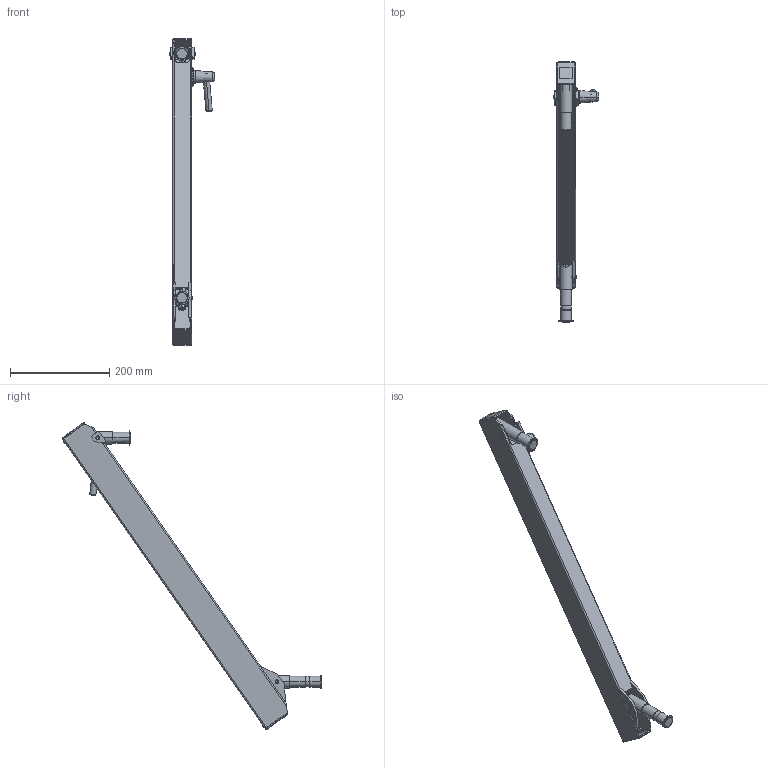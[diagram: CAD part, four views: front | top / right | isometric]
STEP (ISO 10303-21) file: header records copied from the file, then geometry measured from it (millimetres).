
FILE_DESCRIPTION (( 'STEP AP203' ), '1' );
FILE_NAME ('70-2435-00 REV AA, FLEX SECTION, 24in, 16-35 LB - UP.STEP', '2025-06-17T23:27:09', ( '' ), ( '' ), 'SwSTEP 2.0', 'SolidWorks 2025', '' );
FILE_SCHEMA (( 'CONFIG_CONTROL_DESIGN' ));
Length unit declared in the file: inch
Products named in the file (37): 71-2033-99 REV AA, BOLT, ADJUSTING, 12.120; 71-0057-WDX REV AA, GUIDE WELDMENT, 24in DOUBLE SPRING GUIDE; 002-041-00_002-041-00; 71-0038-RX REV AA, PIVOT, KNUCKLE, ELECTROLESS NICKEL; 71-2400-RX REV AA, HOUSING, 24in FLEX; 005-084-00, BOLT, 1''4-20x2.75; 010-012-00, RETAINING RING, EXTERNAL, .875in SHAFT; 010-011-00, RETAINING RING, EXT, .250 SHAFT_010-011-00; 006-059-00; 007-036-00, SHSS, 1''4-28, .25L_007-036-00; 71-0058-RX REV AA, BAR, GUIDE, 24in DOUBLE SPRING; 71-0070-RX REV AA, AXLE PIN, SHORT; 71-0060-00; 71-1051-RX REV AA, SPRING BLOCK; 011-020-00 REV AA, PIN, KNURLED, 1.0LG x .25OD; 11-0602-RX REV AA, HANDLE, BRAKE ASSEMBLY; 11-0650-00 REV AA, BRAKE HANDLE ASSEMBLY; 004-144-00; 71-0028-RX REV AA, TAB, MOUNT_MACHINE; 016-070-00, BEARING, PLASTIC, .5ID x .625 OD x .75; 011-033-00; 004-050-00, WASHER, FIBER, .032 THK, .265ID; 71-0972-99 REV 1, END CAP, FLEX; 70-2435-00 REV AA,  FLEX SECTION, 24in, 16-35 LB - UP; 71-3032-RX REV AA, SPRING ROD, 24in FLEX; 71-2401-BLKX REV AA, FLEX HOUSING, 24in, BLACK; 71-0059-RX REV AA, BUSHING, GUIDE, 24in DOUBLE SPRING; 013-043-00, SPRING, GOLD, 1x8_ISO425203; 71-0040-RX REV AA, BRAKE BLOCK, WIDE_MACHINE; 006-004-00_006-004-00; 11-0027-RX REV AA, PLASTIC DISC, BRAKE ASSEMBLY_MACHINE; 71-0031-RX REV AA, KNUCKLE, MOUNT_MACHINE; 71-0071-RX REV AA, AXLE PIN, LONG; 71-0030-RX REV AA, KNUCKLE, LOAD_MACHINE; 11-0601-99 REV AA, CONICAL KNOB, BRAKE ASSEMBLY; 71-0037-RX REV AA, PIVOT, THREADED; 71-0029-RX REV AA, TAB, LOAD
Assembly tree (61 placements, depth 3):
  70-2435-00 REV AA,  FLEX SECTION, 24in, 16-35 LB - UP
    71-0031-RX REV AA, KNUCKLE, MOUNT_MACHINE
    71-1051-RX REV AA, SPRING BLOCK
    71-3032-RX REV AA, SPRING ROD, 24in FLEX
    71-0030-RX REV AA, KNUCKLE, LOAD_MACHINE
    71-0038-RX REV AA, PIVOT, KNUCKLE, ELECTROLESS NICKEL
    71-0037-RX REV AA, PIVOT, THREADED
    71-0040-RX REV AA, BRAKE BLOCK, WIDE_MACHINE
    71-2033-99 REV AA, BOLT, ADJUSTING, 12.120
    71-2401-BLKX REV AA, FLEX HOUSING, 24in, BLACK
      71-2400-RX REV AA, HOUSING, 24in FLEX
      71-0029-RX REV AA, TAB, LOAD  x2
      71-0028-RX REV AA, TAB, MOUNT_MACHINE  x2
    71-0070-RX REV AA, AXLE PIN, SHORT
    71-0071-RX REV AA, AXLE PIN, LONG
    71-0972-99 REV 1, END CAP, FLEX  x2
    11-0027-RX REV AA, PLASTIC DISC, BRAKE ASSEMBLY_MACHINE
    71-0057-WDX REV AA, GUIDE WELDMENT, 24in DOUBLE SPRING GUIDE
      71-0058-RX REV AA, BAR, GUIDE, 24in DOUBLE SPRING
      71-0059-RX REV AA, BUSHING, GUIDE, 24in DOUBLE SPRING  x2
    71-0060-00  x2
    11-0650-00 REV AA, BRAKE HANDLE ASSEMBLY
      11-0601-99 REV AA, CONICAL KNOB, BRAKE ASSEMBLY
      11-0602-RX REV AA, HANDLE, BRAKE ASSEMBLY
      11-0027-RX REV AA, PLASTIC DISC, BRAKE ASSEMBLY_MACHINE
      005-084-00, BOLT, 1''4-20x2.75
    010-012-00, RETAINING RING, EXTERNAL, .875in SHAFT  x2
    013-043-00, SPRING, GOLD, 1x8_ISO425203  x2
    010-011-00, RETAINING RING, EXT, .250 SHAFT_010-011-00  x4
    007-036-00, SHSS, 1''4-28, .25L_007-036-00
    016-070-00, BEARING, PLASTIC, .5ID x .625 OD x .75  x2
    004-050-00, WASHER, FIBER, .032 THK, .265ID  x8
    011-033-00  x2
    011-020-00 REV AA, PIN, KNURLED, 1.0LG x .25OD  x2
    004-144-00  x3
    006-059-00
    006-004-00_006-004-00  x2
    002-041-00_002-041-00  x2
Bounding box: 91.63 x 522.84 x 617.51 mm (x, y, z)
Volume: 699249.7 mm3; surface area: 477558.6 mm2
Topology: 61 solids, 61 shells, 1189 faces, 2882 edges, 1814 vertices
Faces by surface type: cylinder 484, plane 404, cone 217, torus 45, bspline 33, sphere 6
Entity records: 65279 total; most frequent: CARTESIAN_POINT 41780, ORIENTED_EDGE 3952, DIRECTION 3929, EDGE_CURVE 1976, AXIS2_PLACEMENT_3D 1509, VERTEX_POINT 1242, VECTOR 911, LINE 911
